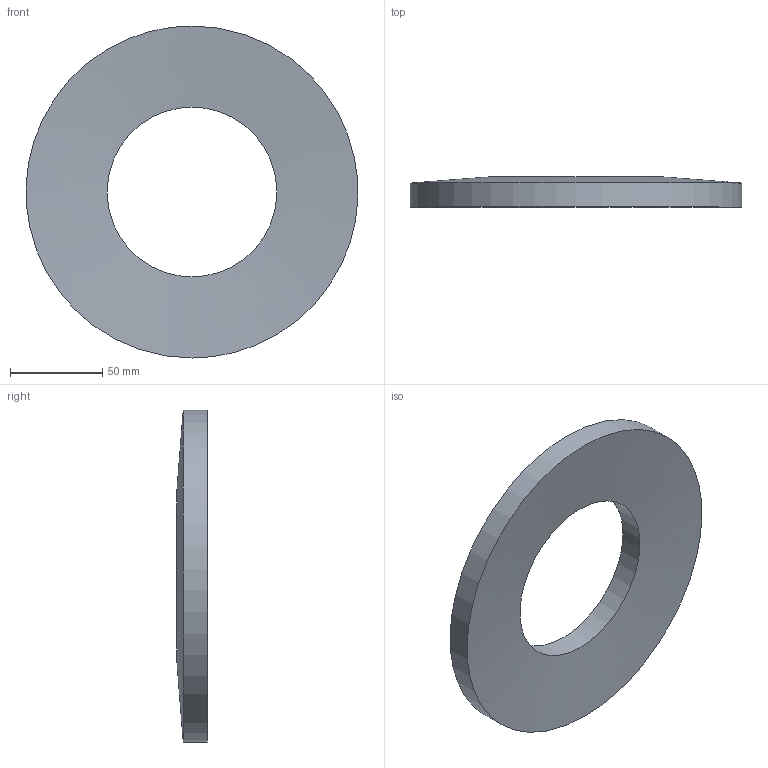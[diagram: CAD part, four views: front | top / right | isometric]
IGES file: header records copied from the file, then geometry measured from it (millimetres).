
Global section: file name: ST.1800.0920.1300; native system: Autodesk Inventor 2026; preprocessor: unknown; author: J. Iwanek; date: 20260918.103600; units: millimetre
Bounding box: 179.84 x 16.5 x 180 mm (x, y, z)
Volume: 245234.1 mm3; surface area: 48875.3 mm2
Topology: 1 solids, 1 shells, 4 faces, 12 edges, 8 vertices
Faces by surface type: bspline 4
